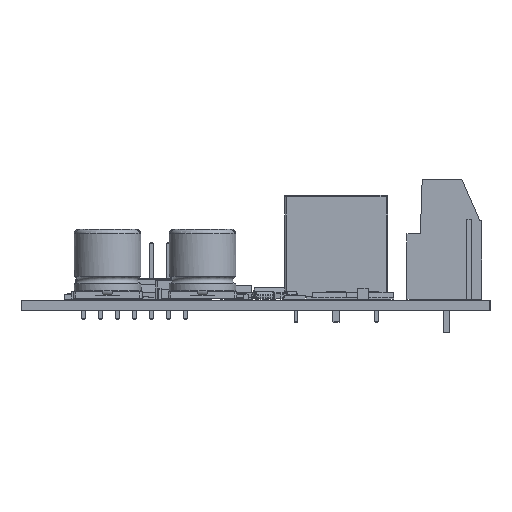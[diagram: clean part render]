
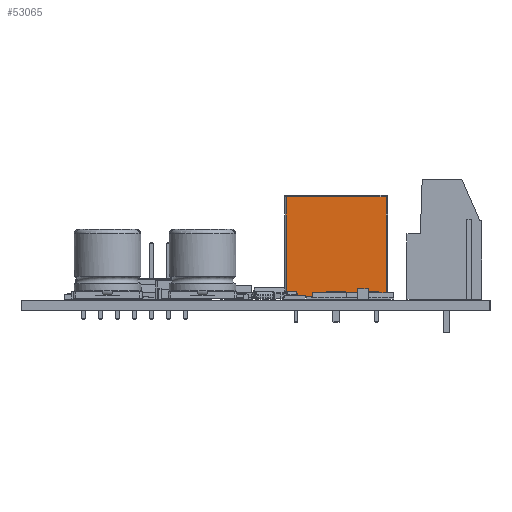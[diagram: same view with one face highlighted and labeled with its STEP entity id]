
A CAD part, left-side view. The second image highlights one B-rep face of the part: STEP entity #53065.
In plain terms, the highlighted planar face has unit normal (-1, 0, 0).
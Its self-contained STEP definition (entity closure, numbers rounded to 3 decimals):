
#52602 = VERTEX_POINT('',#52603);
#52603 = CARTESIAN_POINT('',(-1.3,-7.2,0.48));
#52609 = EDGE_CURVE('',#52602,#52610,#52612,.T.);
#52610 = VERTEX_POINT('',#52611);
#52611 = CARTESIAN_POINT('',(-1.3,7.2,0.48));
#52612 = LINE('',#52613,#52614);
#52613 = CARTESIAN_POINT('',(-1.3,-7.2,0.48));
#52614 = VECTOR('',#52615,1.);
#52615 = DIRECTION('',(0.,1.,0.));
#53022 = VERTEX_POINT('',#53023);
#53023 = CARTESIAN_POINT('',(-1.3,7.2,0.1));
#53029 = EDGE_CURVE('',#53022,#52610,#53030,.T.);
#53030 = LINE('',#53031,#53032);
#53031 = CARTESIAN_POINT('',(-1.3,7.2,0.1));
#53032 = VECTOR('',#53033,1.);
#53033 = DIRECTION('',(0.,0.,1.));
#53065 = ADVANCED_FACE('',(#53066),#53116,.T.);
#53066 = FACE_BOUND('',#53067,.T.);
#53067 = EDGE_LOOP('',(#53068,#53078,#53084,#53085,#53086,#53094,#53102,
    #53110));
#53068 = ORIENTED_EDGE('',*,*,#53069,.F.);
#53069 = EDGE_CURVE('',#53070,#53072,#53074,.T.);
#53070 = VERTEX_POINT('',#53071);
#53071 = CARTESIAN_POINT('',(-1.3,7.45,0.1));
#53072 = VERTEX_POINT('',#53073);
#53073 = CARTESIAN_POINT('',(-1.3,7.45,15.35));
#53074 = LINE('',#53075,#53076);
#53075 = CARTESIAN_POINT('',(-1.3,7.45,0.1));
#53076 = VECTOR('',#53077,1.);
#53077 = DIRECTION('',(0.,0.,1.));
#53078 = ORIENTED_EDGE('',*,*,#53079,.F.);
#53079 = EDGE_CURVE('',#53022,#53070,#53080,.T.);
#53080 = LINE('',#53081,#53082);
#53081 = CARTESIAN_POINT('',(-1.3,-7.7,0.1));
#53082 = VECTOR('',#53083,1.);
#53083 = DIRECTION('',(0.,1.,0.));
#53084 = ORIENTED_EDGE('',*,*,#53029,.T.);
#53085 = ORIENTED_EDGE('',*,*,#52609,.F.);
#53086 = ORIENTED_EDGE('',*,*,#53087,.F.);
#53087 = EDGE_CURVE('',#53088,#52602,#53090,.T.);
#53088 = VERTEX_POINT('',#53089);
#53089 = CARTESIAN_POINT('',(-1.3,-7.2,0.1));
#53090 = LINE('',#53091,#53092);
#53091 = CARTESIAN_POINT('',(-1.3,-7.2,0.1));
#53092 = VECTOR('',#53093,1.);
#53093 = DIRECTION('',(0.,0.,1.));
#53094 = ORIENTED_EDGE('',*,*,#53095,.F.);
#53095 = EDGE_CURVE('',#53096,#53088,#53098,.T.);
#53096 = VERTEX_POINT('',#53097);
#53097 = CARTESIAN_POINT('',(-1.3,-7.45,0.1));
#53098 = LINE('',#53099,#53100);
#53099 = CARTESIAN_POINT('',(-1.3,-7.7,0.1));
#53100 = VECTOR('',#53101,1.);
#53101 = DIRECTION('',(0.,1.,0.));
#53102 = ORIENTED_EDGE('',*,*,#53103,.T.);
#53103 = EDGE_CURVE('',#53096,#53104,#53106,.T.);
#53104 = VERTEX_POINT('',#53105);
#53105 = CARTESIAN_POINT('',(-1.3,-7.45,15.35));
#53106 = LINE('',#53107,#53108);
#53107 = CARTESIAN_POINT('',(-1.3,-7.45,0.1));
#53108 = VECTOR('',#53109,1.);
#53109 = DIRECTION('',(0.,0.,1.));
#53110 = ORIENTED_EDGE('',*,*,#53111,.T.);
#53111 = EDGE_CURVE('',#53104,#53072,#53112,.T.);
#53112 = LINE('',#53113,#53114);
#53113 = CARTESIAN_POINT('',(-1.3,-7.45,15.35));
#53114 = VECTOR('',#53115,1.);
#53115 = DIRECTION('',(0.,1.,0.));
#53116 = PLANE('',#53117);
#53117 = AXIS2_PLACEMENT_3D('',#53118,#53119,#53120);
#53118 = CARTESIAN_POINT('',(-1.3,-7.7,0.1));
#53119 = DIRECTION('',(-1.,0.,0.));
#53120 = DIRECTION('',(0.,1.,0.));
